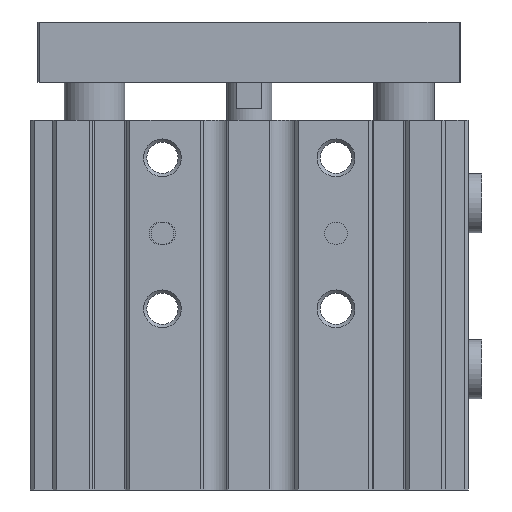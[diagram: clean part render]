
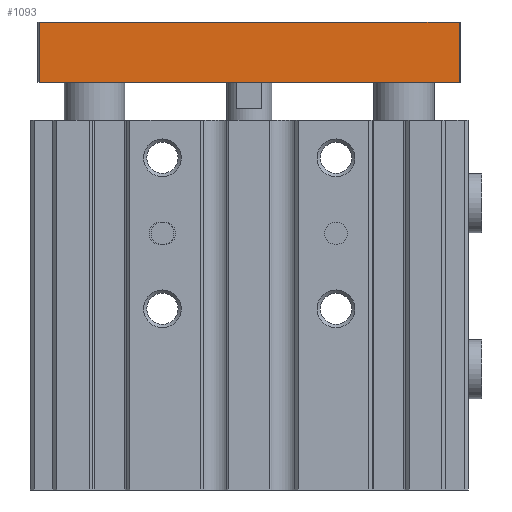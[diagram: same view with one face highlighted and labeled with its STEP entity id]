
A CAD part, left-side view. The second image highlights one B-rep face of the part: STEP entity #1093.
In plain terms, the highlighted planar face has unit normal (-1, 0, 0).
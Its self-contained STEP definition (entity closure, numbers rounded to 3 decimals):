
#1093 = ADVANCED_FACE( '', ( #2288 ), #2289, .F. );
#2288 = FACE_OUTER_BOUND( '', #3498, .T. );
#2289 = PLANE( '', #3499 );
#3498 = EDGE_LOOP( '', ( #6347, #6348, #6349, #6350 ) );
#3499 = AXIS2_PLACEMENT_3D( '', #6351, #6352, #6353 );
#6347 = ORIENTED_EDGE( '', *, *, #7222, .T. );
#6348 = ORIENTED_EDGE( '', *, *, #6730, .F. );
#6349 = ORIENTED_EDGE( '', *, *, #7642, .F. );
#6350 = ORIENTED_EDGE( '', *, *, #7337, .T. );
#6351 = CARTESIAN_POINT( '', ( -11., 27.8, 13. ) );
#6352 = DIRECTION( '', ( 1., 0., 0. ) );
#6353 = DIRECTION( '', ( 0., 0., -1. ) );
#6730 = EDGE_CURVE( '', #7988, #7983, #7990, .T. );
#7222 = EDGE_CURVE( '', #8759, #7983, #8767, .T. );
#7337 = EDGE_CURVE( '', #8927, #8759, #8928, .T. );
#7642 = EDGE_CURVE( '', #8927, #7988, #9310, .T. );
#7983 = VERTEX_POINT( '', #9774 );
#7988 = VERTEX_POINT( '', #9781 );
#7990 = LINE( '', #9784, #9785 );
#8759 = VERTEX_POINT( '', #10901 );
#8767 = LINE( '', #10914, #10915 );
#8927 = VERTEX_POINT( '', #11140 );
#8928 = LINE( '', #11141, #11142 );
#9310 = LINE( '', #11673, #11674 );
#9774 = CARTESIAN_POINT( '', ( -11., -27.8, 5. ) );
#9781 = CARTESIAN_POINT( '', ( -11., -27.8, 13. ) );
#9784 = CARTESIAN_POINT( '', ( -11., -27.8, 13. ) );
#9785 = VECTOR( '', #11918, 1000. );
#10901 = CARTESIAN_POINT( '', ( -11., 27.8, 5. ) );
#10914 = CARTESIAN_POINT( '', ( -11., 27.8, 5. ) );
#10915 = VECTOR( '', #12531, 1000. );
#11140 = CARTESIAN_POINT( '', ( -11., 27.8, 13. ) );
#11141 = CARTESIAN_POINT( '', ( -11., 27.8, 13. ) );
#11142 = VECTOR( '', #12694, 1000. );
#11673 = CARTESIAN_POINT( '', ( -11., 27.8, 13. ) );
#11674 = VECTOR( '', #12966, 1000. );
#11918 = DIRECTION( '', ( 0., 0., -1. ) );
#12531 = DIRECTION( '', ( 0., -1., 0. ) );
#12694 = DIRECTION( '', ( 0., 0., -1. ) );
#12966 = DIRECTION( '', ( 0., -1., 0. ) );
